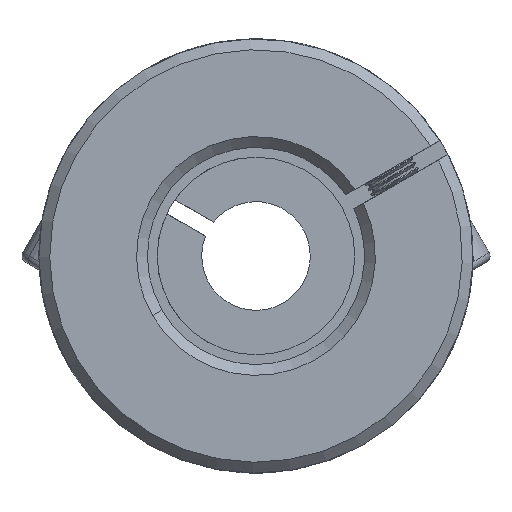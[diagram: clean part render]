
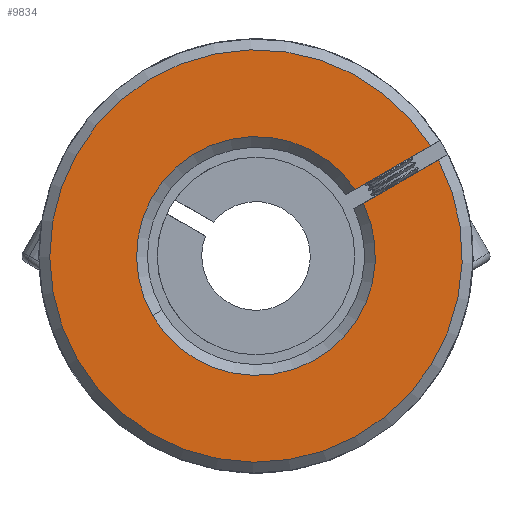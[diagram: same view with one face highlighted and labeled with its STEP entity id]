
A CAD part, front view. The second image highlights one B-rep face of the part: STEP entity #9834.
In plain terms, the highlighted planar face has unit normal (0, -1, 0).
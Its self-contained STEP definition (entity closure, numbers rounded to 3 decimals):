
#127 = DIRECTION ( 'NONE',  ( 0.5, 0., -0.866 ) ) ;
#766 = ORIENTED_EDGE ( 'NONE', *, *, #5160, .T. ) ;
#1082 = EDGE_LOOP ( 'NONE', ( #9382, #766, #2607, #7135, #1100 ) ) ;
#1100 = ORIENTED_EDGE ( 'NONE', *, *, #9428, .T. ) ;
#1471 = VERTEX_POINT ( 'NONE', #2014 ) ;
#1689 = EDGE_CURVE ( 'NONE', #9814, #1770, #4669, .T. ) ;
#1770 = VERTEX_POINT ( 'NONE', #2799 ) ;
#2014 = CARTESIAN_POINT ( 'NONE',  ( 14.616, -31.239, 50.147 ) ) ;
#2607 = ORIENTED_EDGE ( 'NONE', *, *, #12245, .T. ) ;
#2799 = CARTESIAN_POINT ( 'NONE',  ( 15.367, -31.239, 48.848 ) ) ;
#3407 = DIRECTION ( 'NONE',  ( 0., 1., 0. ) ) ;
#3554 = CARTESIAN_POINT ( 'NONE',  ( 7.562, -31.239, 44.339 ) ) ;
#3919 = EDGE_CURVE ( 'NONE', #1471, #8150, #4465, .T. ) ;
#4046 = AXIS2_PLACEMENT_3D ( 'NONE', #12473, #5079, #6064 ) ;
#4379 = CARTESIAN_POINT ( 'NONE',  ( -1.447, -31.239, 40. ) ) ;
#4465 = LINE ( 'NONE', #10530, #11765 ) ;
#4664 = DIRECTION ( 'NONE',  ( 0., 1., 0. ) ) ;
#4669 = LINE ( 'NONE', #3554, #5695 ) ;
#5079 = DIRECTION ( 'NONE',  ( 0., -1., 0. ) ) ;
#5160 = EDGE_CURVE ( 'NONE', #9814, #6359, #5628, .T. ) ;
#5628 = CIRCLE ( 'NONE', #13442, 11. ) ;
#5695 = VECTOR ( 'NONE', #7835, 1000. ) ;
#5715 = PLANE ( 'NONE',  #10229 ) ;
#6064 = DIRECTION ( 'NONE',  ( 0.5, 0., -0.866 ) ) ;
#6212 = CARTESIAN_POINT ( 'NONE',  ( 7.68, -31.239, 46.14 ) ) ;
#6359 = VERTEX_POINT ( 'NONE', #6991 ) ;
#6701 = DIRECTION ( 'NONE',  ( 0.5, 0., -0.866 ) ) ;
#6815 = DIRECTION ( 'NONE',  ( 0.5, 0., -0.866 ) ) ;
#6991 = CARTESIAN_POINT ( 'NONE',  ( -10.971, -31.239, 34.497 ) ) ;
#7135 = ORIENTED_EDGE ( 'NONE', *, *, #3919, .F. ) ;
#7835 = DIRECTION ( 'NONE',  ( 0.866, 0., 0.5 ) ) ;
#8150 = VERTEX_POINT ( 'NONE', #6212 ) ;
#9382 = ORIENTED_EDGE ( 'NONE', *, *, #1689, .F. ) ;
#9428 = EDGE_CURVE ( 'NONE', #1471, #1770, #11994, .T. ) ;
#9814 = VERTEX_POINT ( 'NONE', #10997 ) ;
#9834 = ADVANCED_FACE ( 'NONE', ( #13284 ), #5715, .F. ) ;
#9934 = DIRECTION ( 'NONE',  ( 0., 1., 0. ) ) ;
#10011 = CARTESIAN_POINT ( 'NONE',  ( 52.98, -31.239, 45.743 ) ) ;
#10229 = AXIS2_PLACEMENT_3D ( 'NONE', #10011, #4664, #6815 ) ;
#10343 = DIRECTION ( 'NONE',  ( -0.866, 0., -0.5 ) ) ;
#10530 = CARTESIAN_POINT ( 'NONE',  ( 6.812, -31.239, 45.638 ) ) ;
#10997 = CARTESIAN_POINT ( 'NONE',  ( 8.431, -31.239, 44.841 ) ) ;
#11058 = CARTESIAN_POINT ( 'NONE',  ( -1.447, -31.239, 40. ) ) ;
#11765 = VECTOR ( 'NONE', #10343, 1000. ) ;
#11994 = CIRCLE ( 'NONE', #4046, 19. ) ;
#12245 = EDGE_CURVE ( 'NONE', #6359, #8150, #12401, .T. ) ;
#12401 = CIRCLE ( 'NONE', #13293, 11. ) ;
#12473 = CARTESIAN_POINT ( 'NONE',  ( -1.447, -31.239, 40. ) ) ;
#13284 = FACE_OUTER_BOUND ( 'NONE', #1082, .T. ) ;
#13293 = AXIS2_PLACEMENT_3D ( 'NONE', #11058, #9934, #6701 ) ;
#13442 = AXIS2_PLACEMENT_3D ( 'NONE', #4379, #3407, #127 ) ;
